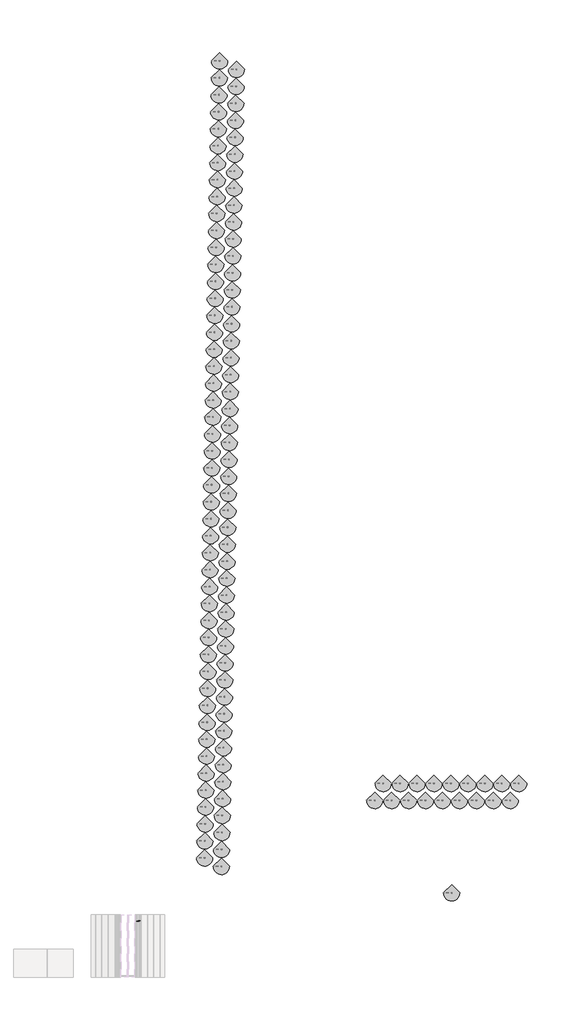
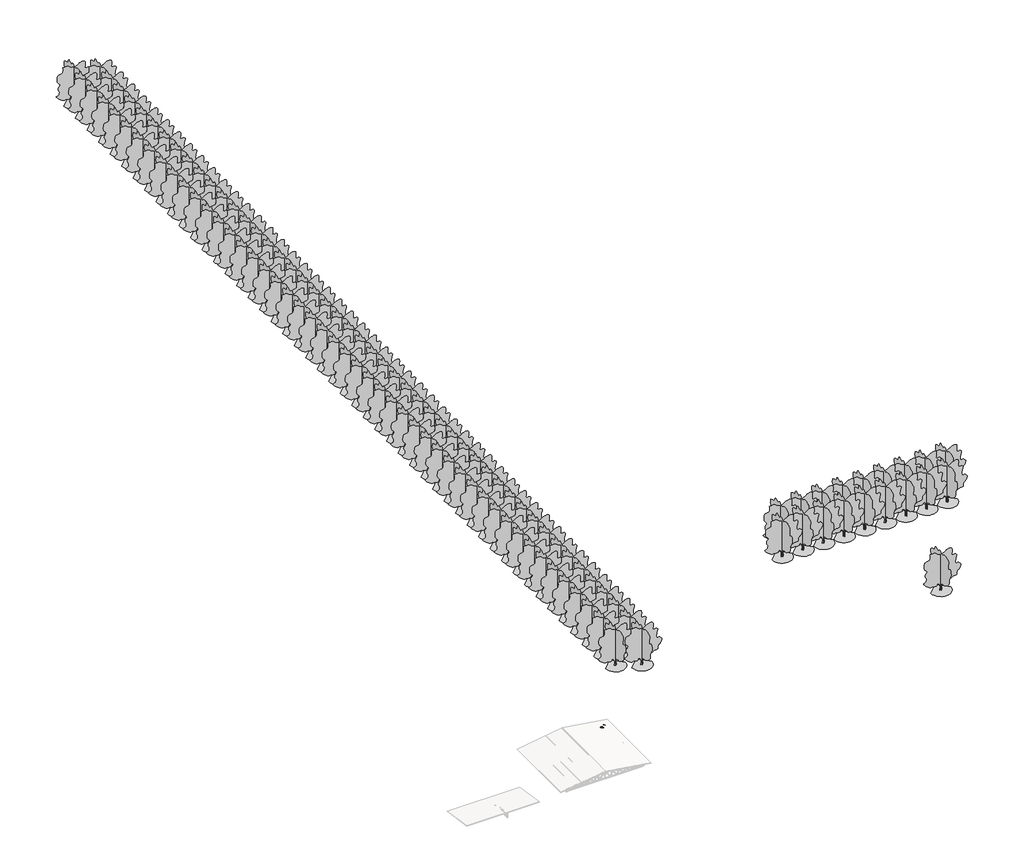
# One storey, part 3 of 3: 115 geographic elements, 3 beams.
"""IFC4 building model written with IfcOpenShell, lengths in millimetres."""

from ifc_helpers import new_model, si_unit, frame, origin, place, context, project, spatial, polyline, circle_curve, ellipse_curve, faceted_brep, transform, mapped, element, save
from ifc_brep_helpers import plane_surface, cylinder_surface, revolved_surface, advanced_brep
from components import viga_c_10x10_969106f8, viga_c_10x10_c6adb8ef, geographic_element_a8546ef5

model = new_model("IFC4")

# Units and contexts
model_context = context("Model", 3, world=origin())
ifc_project = project(units=[si_unit("LENGTHUNIT", "METRE", prefix="MILLI")], contexts=[model_context])

# Site, building, storey
site = spatial("IfcSite", under=ifc_project)
building = spatial("IfcBuilding", under=site)
storey = spatial("IfcBuildingStorey", under=building, Name="NÍVEL PLATIBANDA", Elevation=4700.0)

# Beams
placement = place(None, origin())
element("IfcBeam", 1, ObjectType="VIGA PERFIL C AÇO : VIGA C 10X10", at=placement, inside=storey, context=model_context, shape_type="SolidModel", body=[
    advanced_brep(
    [(11327.9549749, 9465.0563425, 5169.8578124), (11327.9549749, 9372.6563425, 5169.8578124), (11327.3912812, 9368.8563425, 5166.0998543), (11313.6846234, 9368.8563425, 5074.7221353), (11313.1209297, 9372.6563425, 5070.9641771), (11313.1209297, 9388.8563425, 5070.9641771), (11313.4027765, 9388.8563425, 5072.8431562), (11313.4027765, 9372.6563425, 5072.8431562), (11313.6846234, 9370.7563425, 5074.7221353), (11327.3912812, 9370.7563425, 5166.0998543), (11327.6731281, 9372.6563425, 5167.9788333), (11327.6731281, 9465.0563425, 5167.9788333), (11327.3912812, 9466.9563425, 5166.0998543), (11313.6846234, 9466.9563425, 5074.7221353), (11313.4027765, 9465.0563425, 5072.8431562), (11313.4027765, 9448.8563425, 5072.8431562), (11313.1209297, 9448.8563425, 5070.9641771), (11313.1209297, 9465.0563425, 5070.9641771), (11313.6846234, 9468.8563425, 5074.7221353), (11327.3912812, 9468.8563425, 5166.0998543), (3776.8201839, 9465.0563425, 6302.5280311), (3776.8201839, 9372.6563425, 6302.5280311), (3776.8201839, 9368.8563425, 6298.6855189), (3776.8201839, 9368.8563425, 6205.2518012), (3776.8201839, 9372.6563425, 6201.409289), (3776.8201839, 9388.8563425, 6201.409289), (3776.8201839, 9388.8563425, 6203.3305451), (3776.8201839, 9372.6563425, 6203.3305451), (3776.8201839, 9370.7563425, 6205.2518012), (3776.8201839, 9370.7563425, 6298.6855189), (3776.8201839, 9372.6563425, 6300.606775), (3776.8201839, 9465.0563425, 6300.606775), (3776.8201839, 9466.9563425, 6298.6855189), (3776.8201839, 9466.9563425, 6205.2518012), (3776.8201839, 9465.0563425, 6203.3305451), (3776.8201839, 9448.8563425, 6203.3305451), (3776.8201839, 9448.8563425, 6201.409289), (3776.8201839, 9465.0563425, 6201.409289), (3776.8201839, 9468.8563425, 6205.2518012), (3776.8201839, 9468.8563425, 6298.6855189)],
    [
        (0, 1),
        (1, 2, circle_curve(frame((11327.3912812, 9372.6563425, 5166.0998543), z_axis=(0.9889363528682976, 0.0, -0.14834045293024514), x_axis=(-0.14834045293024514, 0.0, -0.9889363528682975)), 3.8)),
        (2, 3),
        (3, 4, circle_curve(frame((11313.6846234, 9372.6563425, 5074.7221353), z_axis=(0.9889363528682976, 0.0, -0.14834045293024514), x_axis=(-0.14834045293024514, 0.0, -0.9889363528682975)), 3.8)),
        (4, 5),
        (5, 6),
        (6, 7),
        (7, 8, circle_curve(frame((11313.6846234, 9372.6563425, 5074.7221353), z_axis=(-0.9889363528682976, 0.0, 0.14834045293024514), x_axis=(-0.14834045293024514, 0.0, -0.9889363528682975)), 1.9)),
        (8, 9),
        (9, 10, circle_curve(frame((11327.3912812, 9372.6563425, 5166.0998543), z_axis=(-0.9889363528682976, 0.0, 0.14834045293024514), x_axis=(-0.14834045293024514, 0.0, -0.9889363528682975)), 1.9)),
        (10, 11),
        (11, 12, circle_curve(frame((11327.3912812, 9465.0563425, 5166.0998543), z_axis=(-0.9889363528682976, 0.0, 0.14834045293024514), x_axis=(-0.14834045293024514, 0.0, -0.9889363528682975)), 1.9)),
        (12, 13),
        (13, 14, circle_curve(frame((11313.6846234, 9465.0563425, 5074.7221353), z_axis=(-0.9889363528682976, 0.0, 0.14834045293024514), x_axis=(-0.14834045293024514, 0.0, -0.9889363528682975)), 1.9)),
        (14, 15),
        (15, 16),
        (16, 17),
        (17, 18, circle_curve(frame((11313.6846234, 9465.0563425, 5074.7221353), z_axis=(0.9889363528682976, 0.0, -0.14834045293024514), x_axis=(-0.14834045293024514, 0.0, -0.9889363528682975)), 3.8)),
        (18, 19),
        (19, 0, circle_curve(frame((11327.3912812, 9465.0563425, 5166.0998543), z_axis=(0.9889363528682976, 0.0, -0.14834045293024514), x_axis=(-0.14834045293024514, 0.0, -0.9889363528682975)), 3.8)),
        (0, 20),
        (20, 21),
        (21, 1),
        (21, 22, ellipse_curve(frame((3776.8201839, 9372.6563425, 6298.6855189), z_axis=(1.0, 0.0, 0.0), x_axis=(0.0, 0.0, -1.0)), 3.8425122, 3.8)),
        (22, 2),
        (22, 23),
        (23, 3),
        (23, 24, ellipse_curve(frame((3776.8201839, 9372.6563425, 6205.2518012), z_axis=(1.0, 0.0, 0.0), x_axis=(0.0, 0.0, -1.0)), 3.8425122, 3.8)),
        (24, 4),
        (24, 25),
        (25, 5),
        (25, 26),
        (26, 6),
        (26, 27),
        (27, 7),
        (27, 28, ellipse_curve(frame((3776.8201839, 9372.6563425, 6205.2518012), z_axis=(-1.0, 0.0, 0.0), x_axis=(0.0, 0.0, 1.0)), 1.9212561, 1.9)),
        (28, 8),
        (28, 29),
        (29, 9),
        (29, 30, ellipse_curve(frame((3776.8201839, 9372.6563425, 6298.6855189), z_axis=(-1.0, 0.0, 0.0), x_axis=(0.0, 0.0, 1.0)), 1.9212561, 1.9)),
        (30, 10),
        (30, 31),
        (31, 11),
        (31, 32, ellipse_curve(frame((3776.8201839, 9465.0563425, 6298.6855189), z_axis=(-1.0, 0.0, 0.0), x_axis=(0.0, 0.0, 1.0)), 1.9212561, 1.9)),
        (32, 12),
        (32, 33),
        (33, 13),
        (33, 34, ellipse_curve(frame((3776.8201839, 9465.0563425, 6205.2518012), z_axis=(-1.0, 0.0, 0.0), x_axis=(0.0, 0.0, 1.0)), 1.9212561, 1.9)),
        (34, 14),
        (34, 35),
        (35, 15),
        (35, 36),
        (36, 16),
        (36, 37),
        (37, 17),
        (37, 38, ellipse_curve(frame((3776.8201839, 9465.0563425, 6205.2518012), z_axis=(1.0, 0.0, 0.0), x_axis=(0.0, 0.0, -1.0)), 3.8425122, 3.8)),
        (38, 18),
        (38, 39),
        (39, 19),
        (39, 20, ellipse_curve(frame((3776.8201839, 9465.0563425, 6298.6855189), z_axis=(1.0, 0.0, 0.0), x_axis=(0.0, 0.0, -1.0)), 3.8425122, 3.8)),
    ],
    [
        plane_surface(frame((11327.9549749, 9418.8563425, 5169.8578124), z_axis=(0.9889363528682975, 0.0, -0.14834045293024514), x_axis=(0.0, -1.0, 0.0))),
        plane_surface(frame((11327.9549749, 9465.0563425, 5169.8578124), z_axis=(0.14834045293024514, 0.0, 0.9889363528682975), x_axis=(-0.9889363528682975, 0.0, 0.14834045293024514))),
        cylinder_surface(frame((11327.3912812, 9372.6563425, 5166.0998543), z_axis=(0.9889363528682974, 0.0, -0.14834045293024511), x_axis=(-0.14834045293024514, 0.0, -0.9889363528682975)), 3.8),
        plane_surface(frame((11327.3912812, 9368.8563425, 5166.0998543), z_axis=(0.0, -1.0, 0.0), x_axis=(-0.9889363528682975, 0.0, 0.14834045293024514))),
        cylinder_surface(frame((11313.6846234, 9372.6563425, 5074.7221353), z_axis=(0.9889363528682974, 0.0, -0.14834045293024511), x_axis=(-0.14834045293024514, 0.0, -0.9889363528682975)), 3.8),
        plane_surface(frame((11313.1209297, 9372.6563425, 5070.9641771), z_axis=(-0.14834045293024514, 0.0, -0.9889363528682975), x_axis=(-0.9889363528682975, 0.0, 0.14834045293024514))),
        plane_surface(frame((11313.1209297, 9388.8563425, 5070.9641771), z_axis=(0.0, 1.0, 0.0), x_axis=(-0.9889363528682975, 0.0, 0.14834045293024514))),
        plane_surface(frame((11313.4027765, 9388.8563425, 5072.8431562), z_axis=(0.14834045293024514, 0.0, 0.9889363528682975), x_axis=(-0.9889363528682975, 0.0, 0.14834045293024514))),
        revolved_surface(polyline([(3776.2564901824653, 9372.6563425, 6203.415099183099), (11313.402776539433, 9372.6563425, 5072.843156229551)]), (11313.6846234, 9372.6563425, 5074.7221353), (-0.9889363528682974, 0.0, 0.14834045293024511)),
        plane_surface(frame((11313.6846234, 9370.7563425, 5074.7221353), z_axis=(0.0, 1.0, 0.0), x_axis=(-0.9889363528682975, 0.0, 0.14834045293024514))),
        revolved_surface(polyline([(3776.2564901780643, 9372.6563425, 6296.848816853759), (11327.109434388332, 9372.6563425, 5164.220875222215)]), (11327.3912812, 9372.6563425, 5166.0998543), (-0.9889363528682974, 0.0, 0.14834045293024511)),
        plane_surface(frame((11327.6731281, 9372.6563425, 5167.9788333), z_axis=(-0.14834045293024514, 0.0, -0.9889363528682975), x_axis=(-0.9889363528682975, 0.0, 0.14834045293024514))),
        revolved_surface(polyline([(3776.2564901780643, 9465.0563425, 6296.848816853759), (11327.109434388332, 9465.0563425, 5164.220875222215)]), (11327.3912812, 9465.0563425, 5166.0998543), (-0.9889363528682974, 0.0, 0.14834045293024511)),
        plane_surface(frame((11327.3912812, 9466.9563425, 5166.0998543), z_axis=(0.0, -1.0, 0.0), x_axis=(-0.9889363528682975, 0.0, 0.14834045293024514))),
        revolved_surface(polyline([(3776.2564901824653, 9465.0563425, 6203.415099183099), (11313.402776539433, 9465.0563425, 5072.843156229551)]), (11313.6846234, 9465.0563425, 5074.7221353), (-0.9889363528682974, 0.0, 0.14834045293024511)),
        plane_surface(frame((11313.4027765, 9465.0563425, 5072.8431562), z_axis=(0.14834045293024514, 0.0, 0.9889363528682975), x_axis=(-0.9889363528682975, 0.0, 0.14834045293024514))),
        plane_surface(frame((11313.4027765, 9448.8563425, 5072.8431562), z_axis=(0.0, -1.0, 0.0), x_axis=(-0.9889363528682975, 0.0, 0.14834045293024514))),
        plane_surface(frame((11313.1209297, 9448.8563425, 5070.9641771), z_axis=(-0.14834045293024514, 0.0, -0.9889363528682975), x_axis=(-0.9889363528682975, 0.0, 0.14834045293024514))),
        cylinder_surface(frame((11313.6846234, 9465.0563425, 5074.7221353), z_axis=(0.9889363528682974, 0.0, -0.14834045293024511), x_axis=(-0.14834045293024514, 0.0, -0.9889363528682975)), 3.8),
        plane_surface(frame((11313.6846234, 9468.8563425, 5074.7221353), z_axis=(0.0, 1.0, 0.0), x_axis=(-0.9889363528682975, 0.0, 0.14834045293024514))),
        cylinder_surface(frame((11327.3912812, 9465.0563425, 5166.0998543), z_axis=(0.9889363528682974, 0.0, -0.14834045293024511), x_axis=(-0.14834045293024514, 0.0, -0.9889363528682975)), 3.8),
        plane_surface(frame((3776.8201839, 9418.8563425, 6302.5280311), z_axis=(-1.0, 0.0, 0.0), x_axis=(0.0, 1.0, 0.0))),
    ],
    [
        (0, [[1, 2, 3, 4, 5, 6, 7, 8, 9, 10, 11, 12, 13, 14, 15, 16, 17, 18, 19, 20]]),
        (1, [[-1, 21, 22, 23]]),
        (2, [[-2, -23, 24, 25]]),
        (3, [[-3, -25, 26, 27]]),
        (4, [[-4, -27, 28, 29]]),
        (5, [[-5, -29, 30, 31]]),
        (6, [[-6, -31, 32, 33]]),
        (7, [[-7, -33, 34, 35]]),
        (8, [[-8, -35, 36, 37]]),
        (9, [[-9, -37, 38, 39]]),
        (10, [[-10, -39, 40, 41]]),
        (11, [[-11, -41, 42, 43]]),
        (12, [[-12, -43, 44, 45]]),
        (13, [[-13, -45, 46, 47]]),
        (14, [[-14, -47, 48, 49]]),
        (15, [[-15, -49, 50, 51]]),
        (16, [[-16, -51, 52, 53]]),
        (17, [[-17, -53, 54, 55]]),
        (18, [[-18, -55, 56, 57]]),
        (19, [[-19, -57, 58, 59]]),
        (20, [[-20, -59, 60, -21]]),
        (21, [[-60, -58, -56, -54, -52, -50, -48, -46, -44, -42, -40, -38, -36, -34, -32, -30, -28, -26, -24, -22]]),
    ],
),
    faceted_brep([(11327.9549749, 9468.8563425, 5169.8578124), (11327.9549749, 9368.8563425, 5169.8578124), (11313.1209297, 9368.8563425, 5070.9641771), (11313.1209297, 9388.8563425, 5070.9641771), (11313.4027765, 9388.8563425, 5072.8431562), (11313.4027765, 9370.7563425, 5072.8431562), (11327.6731281, 9370.7563425, 5167.9788333), (11327.6731281, 9466.9563425, 5167.9788333), (11313.4027765, 9466.9563425, 5072.8431562), (11313.4027765, 9448.8563425, 5072.8431562), (11313.1209297, 9448.8563425, 5070.9641771), (11313.1209297, 9468.8563425, 5070.9641771), (3776.8201839, 9468.8563425, 6302.5280311), (3776.8201839, 9368.8563425, 6302.5280311), (3776.8201839, 9368.8563425, 6201.409289), (3776.8201839, 9388.8563425, 6201.409289), (3776.8201839, 9388.8563425, 6203.3305451), (3776.8201839, 9370.7563425, 6203.3305451), (3776.8201839, 9370.7563425, 6300.606775), (3776.8201839, 9466.9563425, 6300.606775), (3776.8201839, 9466.9563425, 6203.3305451), (3776.8201839, 9448.8563425, 6203.3305451), (3776.8201839, 9448.8563425, 6201.409289), (3776.8201839, 9468.8563425, 6201.409289)], [[[0, 1, 2, 3, 4, 5, 6, 7, 8, 9, 10, 11]], [[1, 0, 12, 13]], [[2, 1, 13, 14]], [[3, 2, 14, 15]], [[4, 3, 15, 16]], [[5, 4, 16, 17]], [[6, 5, 17, 18]], [[7, 6, 18, 19]], [[8, 7, 19, 20]], [[9, 8, 20, 21]], [[10, 9, 21, 22]], [[11, 10, 22, 23]], [[0, 11, 23, 12]], [[12, 23, 22, 21, 20, 19, 18, 17, 16, 15, 14, 13]]]),
])
viga_c_10x10_shape = viga_c_10x10_969106f8(model_context)
element("IfcBeam", 2, ObjectType="VIGA PERFIL C AÇO : VIGA C 10X10", at=placement, inside=storey, context=model_context, shape_type="MappedRepresentation", body=[
    mapped(viga_c_10x10_shape, transform((11326.8201839, 9418.8563425, 4930.3625534), x_axis=(0.0, 0.0, 1.0), y_axis=(-1.0, 0.0, 0.0), z_axis=(0.0, -1.0, 0.0))),
])
viga_c_10x10_2_shape = viga_c_10x10_c6adb8ef(model_context)
element("IfcBeam", 3, ObjectType="VIGA PERFIL C AÇO : VIGA C 10X10", at=placement, inside=storey, context=model_context, shape_type="MappedRepresentation", body=[
    mapped(viga_c_10x10_2_shape, transform((10735.1535172, 9418.8563425, 5019.1125534), x_axis=(0.8801462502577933, 0.0, -0.4747026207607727), y_axis=(0.4747026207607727, 0.0, 0.8801462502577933), z_axis=(0.0, -1.0, 0.0))),
])

# Geographic elements
geographic_element_shape = geographic_element_a8546ef5(model_context)
element("IfcGeographicElement", 4, ObjectType="ÁRVORES PADRÃO AMM : RETIRAR", at=placement, inside=storey, context=model_context, shape_type="MappedRepresentation", body=[
    mapped(geographic_element_shape, transform((25830.0186154, 22268.8563425, 4700.0), x_axis=(1.0, 0.0, 0.0), y_axis=(0.0, 1.0, 0.0), z_axis=(0.0, 0.0, 1.0))),
])
element("IfcGeographicElement", 5, ObjectType="ÁRVORES PADRÃO AMM : RETIRAR", at=placement, inside=storey, context=model_context, shape_type="MappedRepresentation", body=[
    mapped(geographic_element_shape, transform((25882.1522208, 26286.4280924, 4700.0), x_axis=(0.9998191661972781, -0.019016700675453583, 0.0), y_axis=(0.01901670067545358, 0.999819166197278, 0.0), z_axis=(0.0, 0.0, 0.9999999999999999))),
])
element("IfcGeographicElement", 6, ObjectType="ÁRVORES PADRÃO AMM : RETIRAR", at=placement, inside=storey, context=model_context, shape_type="MappedRepresentation", body=[
    mapped(geographic_element_shape, transform((25957.4524923, 30280.5954554, 4700.0), x_axis=(1.0, 0.0, 0.0), y_axis=(0.0, 1.0, 0.0), z_axis=(0.0, 0.0, 1.0))),
])
element("IfcGeographicElement", 7, ObjectType="ÁRVORES PADRÃO AMM : RETIRAR", at=placement, inside=storey, context=model_context, shape_type="MappedRepresentation", body=[
    mapped(geographic_element_shape, transform((26033.519295, 34279.8721202, 4700.0), x_axis=(1.0, 0.0, 0.0), y_axis=(0.0, 1.0, 0.0), z_axis=(0.0, 0.0, 1.0))),
])
element("IfcGeographicElement", 8, ObjectType="ÁRVORES PADRÃO AMM : RETIRAR", at=placement, inside=storey, context=model_context, shape_type="MappedRepresentation", body=[
    mapped(geographic_element_shape, transform((26109.5860977, 38279.148785, 4700.0), x_axis=(1.0, 0.0, 0.0), y_axis=(0.0, 1.0, 0.0), z_axis=(0.0, 0.0, 1.0))),
])
element("IfcGeographicElement", 9, ObjectType="ÁRVORES PADRÃO AMM : RETIRAR", at=placement, inside=storey, context=model_context, shape_type="MappedRepresentation", body=[
    mapped(geographic_element_shape, transform((26185.6529004, 42278.4254498, 4700.0), x_axis=(1.0, 0.0, 0.0), y_axis=(0.0, 1.0, 0.0), z_axis=(0.0, 0.0, 1.0))),
])
element("IfcGeographicElement", 10, ObjectType="ÁRVORES PADRÃO AMM : RETIRAR", at=placement, inside=storey, context=model_context, shape_type="MappedRepresentation", body=[
    mapped(geographic_element_shape, transform((26261.7197031, 46277.7021145, 4700.0), x_axis=(1.0, 0.0, 0.0), y_axis=(0.0, 1.0, 0.0), z_axis=(0.0, 0.0, 1.0))),
])
element("IfcGeographicElement", 11, ObjectType="ÁRVORES PADRÃO AMM : RETIRAR", at=placement, inside=storey, context=model_context, shape_type="MappedRepresentation", body=[
    mapped(geographic_element_shape, transform((26337.7865058, 50276.9787793, 4700.0), x_axis=(1.0, 0.0, 0.0), y_axis=(0.0, 1.0, 0.0), z_axis=(0.0, 0.0, 1.0))),
])
element("IfcGeographicElement", 12, ObjectType="ÁRVORES PADRÃO AMM : RETIRAR", at=placement, inside=storey, context=model_context, shape_type="MappedRepresentation", body=[
    mapped(geographic_element_shape, transform((26413.8533085, 54276.2554441, 4700.0), x_axis=(1.0, 0.0, 0.0), y_axis=(0.0, 1.0, 0.0), z_axis=(0.0, 0.0, 1.0))),
])
element("IfcGeographicElement", 13, ObjectType="ÁRVORES PADRÃO AMM : RETIRAR", at=placement, inside=storey, context=model_context, shape_type="MappedRepresentation", body=[
    mapped(geographic_element_shape, transform((26489.9201112, 58275.5321089, 4700.0), x_axis=(1.0, 0.0, 0.0), y_axis=(0.0, 1.0, 0.0), z_axis=(0.0, 0.0, 1.0))),
])
element("IfcGeographicElement", 14, ObjectType="ÁRVORES PADRÃO AMM : RETIRAR", at=placement, inside=storey, context=model_context, shape_type="MappedRepresentation", body=[
    mapped(geographic_element_shape, transform((26565.9869139, 62274.8087737, 4700.0), x_axis=(1.0, 0.0, 0.0), y_axis=(0.0, 1.0, 0.0), z_axis=(0.0, 0.0, 1.0))),
])
element("IfcGeographicElement", 15, ObjectType="ÁRVORES PADRÃO AMM : RETIRAR", at=placement, inside=storey, context=model_context, shape_type="MappedRepresentation", body=[
    mapped(geographic_element_shape, transform((26642.0537166, 66274.0854385, 4700.0), x_axis=(1.0, 0.0, 0.0), y_axis=(0.0, 1.0, 0.0), z_axis=(0.0, 0.0, 1.0))),
])
element("IfcGeographicElement", 16, ObjectType="ÁRVORES PADRÃO AMM : RETIRAR", at=placement, inside=storey, context=model_context, shape_type="MappedRepresentation", body=[
    mapped(geographic_element_shape, transform((26718.1205193, 70273.3621033, 4700.0), x_axis=(1.0, 0.0, 0.0), y_axis=(0.0, 1.0, 0.0), z_axis=(0.0, 0.0, 1.0))),
])
element("IfcGeographicElement", 17, ObjectType="ÁRVORES PADRÃO AMM : RETIRAR", at=placement, inside=storey, context=model_context, shape_type="MappedRepresentation", body=[
    mapped(geographic_element_shape, transform((26794.187322, 74272.6387681, 4700.0), x_axis=(1.0, 0.0, 0.0), y_axis=(0.0, 1.0, 0.0), z_axis=(0.0, 0.0, 1.0))),
])
element("IfcGeographicElement", 18, ObjectType="ÁRVORES PADRÃO AMM : RETIRAR", at=placement, inside=storey, context=model_context, shape_type="MappedRepresentation", body=[
    mapped(geographic_element_shape, transform((26870.2541247, 78271.9154329, 4700.0), x_axis=(1.0, 0.0, 0.0), y_axis=(0.0, 1.0, 0.0), z_axis=(0.0, 0.0, 1.0))),
])
element("IfcGeographicElement", 19, ObjectType="ÁRVORES PADRÃO AMM : RETIRAR", at=placement, inside=storey, context=model_context, shape_type="MappedRepresentation", body=[
    mapped(geographic_element_shape, transform((26946.3209274, 82271.1920976, 4700.0), x_axis=(1.0, 0.0, 0.0), y_axis=(0.0, 1.0, 0.0), z_axis=(0.0, 0.0, 1.0))),
])
element("IfcGeographicElement", 20, ObjectType="ÁRVORES PADRÃO AMM : RETIRAR", at=placement, inside=storey, context=model_context, shape_type="MappedRepresentation", body=[
    mapped(geographic_element_shape, transform((27022.3877301, 86270.4687624, 4700.0), x_axis=(1.0, 0.0, 0.0), y_axis=(0.0, 1.0, 0.0), z_axis=(0.0, 0.0, 1.0))),
])
element("IfcGeographicElement", 21, ObjectType="ÁRVORES PADRÃO AMM : RETIRAR", at=placement, inside=storey, context=model_context, shape_type="MappedRepresentation", body=[
    mapped(geographic_element_shape, transform((27098.4545328, 90269.7454272, 4700.0), x_axis=(1.0, 0.0, 0.0), y_axis=(0.0, 1.0, 0.0), z_axis=(0.0, 0.0, 1.0))),
])
element("IfcGeographicElement", 22, ObjectType="ÁRVORES PADRÃO AMM : RETIRAR", at=placement, inside=storey, context=model_context, shape_type="MappedRepresentation", body=[
    mapped(geographic_element_shape, transform((27174.5213355, 94269.022092, 4700.0), x_axis=(1.0, 0.0, 0.0), y_axis=(0.0, 1.0, 0.0), z_axis=(0.0, 0.0, 1.0))),
])
element("IfcGeographicElement", 23, ObjectType="ÁRVORES PADRÃO AMM : RETIRAR", at=placement, inside=storey, context=model_context, shape_type="MappedRepresentation", body=[
    mapped(geographic_element_shape, transform((27250.5881382, 98268.2987568, 4700.0), x_axis=(1.0, 0.0, 0.0), y_axis=(0.0, 1.0, 0.0), z_axis=(0.0, 0.0, 1.0))),
])
element("IfcGeographicElement", 24, ObjectType="ÁRVORES PADRÃO AMM : RETIRAR", at=placement, inside=storey, context=model_context, shape_type="MappedRepresentation", body=[
    mapped(geographic_element_shape, transform((27326.6549409, 102267.5754216, 4700.0), x_axis=(1.0, 0.0, 0.0), y_axis=(0.0, 1.0, 0.0), z_axis=(0.0, 0.0, 1.0))),
])
element("IfcGeographicElement", 25, ObjectType="ÁRVORES PADRÃO AMM : RETIRAR", at=placement, inside=storey, context=model_context, shape_type="MappedRepresentation", body=[
    mapped(geographic_element_shape, transform((27402.7217436, 106266.8520864, 4700.0), x_axis=(1.0, 0.0, 0.0), y_axis=(0.0, 1.0, 0.0), z_axis=(0.0, 0.0, 1.0))),
])
element("IfcGeographicElement", 26, ObjectType="ÁRVORES PADRÃO AMM : RETIRAR", at=placement, inside=storey, context=model_context, shape_type="MappedRepresentation", body=[
    mapped(geographic_element_shape, transform((27478.7885463, 110266.1287512, 4700.0), x_axis=(1.0, 0.0, 0.0), y_axis=(0.0, 1.0, 0.0), z_axis=(0.0, 0.0, 1.0))),
])
element("IfcGeographicElement", 27, ObjectType="ÁRVORES PADRÃO AMM : RETIRAR", at=placement, inside=storey, context=model_context, shape_type="MappedRepresentation", body=[
    mapped(geographic_element_shape, transform((27554.855349, 114265.405416, 4700.0), x_axis=(1.0, 0.0, 0.0), y_axis=(0.0, 1.0, 0.0), z_axis=(0.0, 0.0, 1.0))),
])
element("IfcGeographicElement", 28, ObjectType="ÁRVORES PADRÃO AMM : RETIRAR", at=placement, inside=storey, context=model_context, shape_type="MappedRepresentation", body=[
    mapped(geographic_element_shape, transform((27630.9221517, 118264.6820807, 4700.0), x_axis=(1.0, 0.0, 0.0), y_axis=(0.0, 1.0, 0.0), z_axis=(0.0, 0.0, 1.0))),
])
element("IfcGeographicElement", 29, ObjectType="ÁRVORES PADRÃO AMM : RETIRAR", at=placement, inside=storey, context=model_context, shape_type="MappedRepresentation", body=[
    mapped(geographic_element_shape, transform((27706.9889544, 122263.9587455, 4700.0), x_axis=(1.0, 0.0, 0.0), y_axis=(0.0, 1.0, 0.0), z_axis=(0.0, 0.0, 1.0))),
])
element("IfcGeographicElement", 30, ObjectType="ÁRVORES PADRÃO AMM : RETIRAR", at=placement, inside=storey, context=model_context, shape_type="MappedRepresentation", body=[
    mapped(geographic_element_shape, transform((27783.0557571, 126263.2354103, 4700.0), x_axis=(1.0, 0.0, 0.0), y_axis=(0.0, 1.0, 0.0), z_axis=(0.0, 0.0, 1.0))),
])
element("IfcGeographicElement", 31, ObjectType="ÁRVORES PADRÃO AMM : RETIRAR", at=placement, inside=storey, context=model_context, shape_type="MappedRepresentation", body=[
    mapped(geographic_element_shape, transform((27859.1225598, 130262.5120751, 4700.0), x_axis=(1.0, 0.0, 0.0), y_axis=(0.0, 1.0, 0.0), z_axis=(0.0, 0.0, 1.0))),
])
element("IfcGeographicElement", 32, ObjectType="ÁRVORES PADRÃO AMM : RETIRAR", at=placement, inside=storey, context=model_context, shape_type="MappedRepresentation", body=[
    mapped(geographic_element_shape, transform((27935.1893625, 134261.7887399, 4700.0), x_axis=(1.0, 0.0, 0.0), y_axis=(0.0, 1.0, 0.0), z_axis=(0.0, 0.0, 1.0))),
])
element("IfcGeographicElement", 33, ObjectType="ÁRVORES PADRÃO AMM : RETIRAR", at=placement, inside=storey, context=model_context, shape_type="MappedRepresentation", body=[
    mapped(geographic_element_shape, transform((28011.2561652, 138261.0654047, 4700.0), x_axis=(1.0, 0.0, 0.0), y_axis=(0.0, 1.0, 0.0), z_axis=(0.0, 0.0, 1.0))),
])
element("IfcGeographicElement", 34, ObjectType="ÁRVORES PADRÃO AMM : RETIRAR", at=placement, inside=storey, context=model_context, shape_type="MappedRepresentation", body=[
    mapped(geographic_element_shape, transform((28087.3229679, 142260.3420695, 4700.0), x_axis=(1.0, 0.0, 0.0), y_axis=(0.0, 1.0, 0.0), z_axis=(0.0, 0.0, 1.0))),
])
element("IfcGeographicElement", 35, ObjectType="ÁRVORES PADRÃO AMM : RETIRAR", at=placement, inside=storey, context=model_context, shape_type="MappedRepresentation", body=[
    mapped(geographic_element_shape, transform((28163.3897706, 146259.6187343, 4700.0), x_axis=(1.0, 0.0, 0.0), y_axis=(0.0, 1.0, 0.0), z_axis=(0.0, 0.0, 1.0))),
])
element("IfcGeographicElement", 36, ObjectType="ÁRVORES PADRÃO AMM : RETIRAR", at=placement, inside=storey, context=model_context, shape_type="MappedRepresentation", body=[
    mapped(geographic_element_shape, transform((28239.4565733, 150258.8953991, 4700.0), x_axis=(1.0, 0.0, 0.0), y_axis=(0.0, 1.0, 0.0), z_axis=(0.0, 0.0, 1.0))),
])
element("IfcGeographicElement", 37, ObjectType="ÁRVORES PADRÃO AMM : RETIRAR", at=placement, inside=storey, context=model_context, shape_type="MappedRepresentation", body=[
    mapped(geographic_element_shape, transform((28315.523376, 154258.1720638, 4700.0), x_axis=(1.0, 0.0, 0.0), y_axis=(0.0, 1.0, 0.0), z_axis=(0.0, 0.0, 1.0))),
])
element("IfcGeographicElement", 38, ObjectType="ÁRVORES PADRÃO AMM : RETIRAR", at=placement, inside=storey, context=model_context, shape_type="MappedRepresentation", body=[
    mapped(geographic_element_shape, transform((28391.5901787, 158257.4487286, 4700.0), x_axis=(1.0, 0.0, 0.0), y_axis=(0.0, 1.0, 0.0), z_axis=(0.0, 0.0, 1.0))),
])
element("IfcGeographicElement", 39, ObjectType="ÁRVORES PADRÃO AMM : RETIRAR", at=placement, inside=storey, context=model_context, shape_type="MappedRepresentation", body=[
    mapped(geographic_element_shape, transform((28467.6569814, 162256.7253934, 4700.0), x_axis=(1.0, 0.0, 0.0), y_axis=(0.0, 1.0, 0.0), z_axis=(0.0, 0.0, 1.0))),
])
element("IfcGeographicElement", 40, ObjectType="ÁRVORES PADRÃO AMM : RETIRAR", at=placement, inside=storey, context=model_context, shape_type="MappedRepresentation", body=[
    mapped(geographic_element_shape, transform((28543.7237841, 166256.0020582, 4700.0), x_axis=(1.0, 0.0, 0.0), y_axis=(0.0, 1.0, 0.0), z_axis=(0.0, 0.0, 1.0))),
])
element("IfcGeographicElement", 41, ObjectType="ÁRVORES PADRÃO AMM : RETIRAR", at=placement, inside=storey, context=model_context, shape_type="MappedRepresentation", body=[
    mapped(geographic_element_shape, transform((28619.7905868, 170255.278723, 4700.0), x_axis=(1.0, 0.0, 0.0), y_axis=(0.0, 1.0, 0.0), z_axis=(0.0, 0.0, 1.0))),
])
element("IfcGeographicElement", 42, ObjectType="ÁRVORES PADRÃO AMM : RETIRAR", at=placement, inside=storey, context=model_context, shape_type="MappedRepresentation", body=[
    mapped(geographic_element_shape, transform((28695.8573895, 174254.5553878, 4700.0), x_axis=(1.0, 0.0, 0.0), y_axis=(0.0, 1.0, 0.0), z_axis=(0.0, 0.0, 1.0))),
])
element("IfcGeographicElement", 43, ObjectType="ÁRVORES PADRÃO AMM : RETIRAR", at=placement, inside=storey, context=model_context, shape_type="MappedRepresentation", body=[
    mapped(geographic_element_shape, transform((28771.9241922, 178253.8320526, 4700.0), x_axis=(1.0, 0.0, 0.0), y_axis=(0.0, 1.0, 0.0), z_axis=(0.0, 0.0, 1.0))),
])
element("IfcGeographicElement", 44, ObjectType="ÁRVORES PADRÃO AMM : RETIRAR", at=placement, inside=storey, context=model_context, shape_type="MappedRepresentation", body=[
    mapped(geographic_element_shape, transform((28847.990995, 182253.1087174, 4700.0), x_axis=(1.0, 0.0, 0.0), y_axis=(0.0, 1.0, 0.0), z_axis=(0.0, 0.0, 1.0))),
])
element("IfcGeographicElement", 45, ObjectType="ÁRVORES PADRÃO AMM : RETIRAR", at=placement, inside=storey, context=model_context, shape_type="MappedRepresentation", body=[
    mapped(geographic_element_shape, transform((28924.0577977, 186252.3853822, 4700.0), x_axis=(1.0, 0.0, 0.0), y_axis=(0.0, 1.0, 0.0), z_axis=(0.0, 0.0, 1.0))),
])
element("IfcGeographicElement", 46, ObjectType="ÁRVORES PADRÃO AMM : RETIRAR", at=placement, inside=storey, context=model_context, shape_type="MappedRepresentation", body=[
    mapped(geographic_element_shape, transform((29000.1246004, 190251.6620469, 4700.0), x_axis=(1.0, 0.0, 0.0), y_axis=(0.0, 1.0, 0.0), z_axis=(0.0, 0.0, 1.0))),
])
element("IfcGeographicElement", 47, ObjectType="ÁRVORES PADRÃO AMM : RETIRAR", at=placement, inside=storey, context=model_context, shape_type="MappedRepresentation", body=[
    mapped(geographic_element_shape, transform((29076.1914031, 194250.9387117, 4700.0), x_axis=(1.0, 0.0, 0.0), y_axis=(0.0, 1.0, 0.0), z_axis=(0.0, 0.0, 1.0))),
])
element("IfcGeographicElement", 48, ObjectType="ÁRVORES PADRÃO AMM : RETIRAR", at=placement, inside=storey, context=model_context, shape_type="MappedRepresentation", body=[
    mapped(geographic_element_shape, transform((29152.2582058, 198250.2153765, 4700.0), x_axis=(1.0, 0.0, 0.0), y_axis=(0.0, 1.0, 0.0), z_axis=(0.0, 0.0, 1.0))),
])
element("IfcGeographicElement", 49, ObjectType="ÁRVORES PADRÃO AMM : RETIRAR", at=placement, inside=storey, context=model_context, shape_type="MappedRepresentation", body=[
    mapped(geographic_element_shape, transform((29228.3250085, 202249.4920413, 4700.0), x_axis=(1.0, 0.0, 0.0), y_axis=(0.0, 1.0, 0.0), z_axis=(0.0, 0.0, 1.0))),
])
element("IfcGeographicElement", 50, ObjectType="ÁRVORES PADRÃO AMM : RETIRAR", at=placement, inside=storey, context=model_context, shape_type="MappedRepresentation", body=[
    mapped(geographic_element_shape, transform((29304.3918112, 206248.7687061, 4700.0), x_axis=(1.0, 0.0, 0.0), y_axis=(0.0, 1.0, 0.0), z_axis=(0.0, 0.0, 1.0))),
])
element("IfcGeographicElement", 51, ObjectType="ÁRVORES PADRÃO AMM : RETIRAR", at=placement, inside=storey, context=model_context, shape_type="MappedRepresentation", body=[
    mapped(geographic_element_shape, transform((29381.2251451, 210253.1546727, 4700.0), x_axis=(0.9998191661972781, -0.019016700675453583, 0.0), y_axis=(0.01901670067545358, 0.999819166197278, 0.0), z_axis=(0.0, 0.0, 0.9999999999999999))),
])
element("IfcGeographicElement", 52, ObjectType="ÁRVORES PADRÃO AMM : RETIRAR", at=placement, inside=storey, context=model_context, shape_type="MappedRepresentation", body=[
    mapped(geographic_element_shape, transform((21869.9192181, 24276.4953511, 4700.0), x_axis=(1.0, 0.0, 0.0), y_axis=(0.0, 1.0, 0.0), z_axis=(0.0, 0.0, 1.0))),
])
element("IfcGeographicElement", 53, ObjectType="ÁRVORES PADRÃO AMM : RETIRAR", at=placement, inside=storey, context=model_context, shape_type="MappedRepresentation", body=[
    mapped(geographic_element_shape, transform((21922.0528235, 28294.0671009, 4700.0), x_axis=(0.9998191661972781, -0.019016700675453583, 0.0), y_axis=(0.01901670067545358, 0.999819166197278, 0.0), z_axis=(0.0, 0.0, 0.9999999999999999))),
])
element("IfcGeographicElement", 54, ObjectType="ÁRVORES PADRÃO AMM : RETIRAR", at=placement, inside=storey, context=model_context, shape_type="MappedRepresentation", body=[
    mapped(geographic_element_shape, transform((21997.353095, 32288.2344639, 4700.0), x_axis=(1.0, 0.0, 0.0), y_axis=(0.0, 1.0, 0.0), z_axis=(0.0, 0.0, 1.0))),
])
element("IfcGeographicElement", 55, ObjectType="ÁRVORES PADRÃO AMM : RETIRAR", at=placement, inside=storey, context=model_context, shape_type="MappedRepresentation", body=[
    mapped(geographic_element_shape, transform((22073.4198977, 36287.5111287, 4700.0), x_axis=(1.0, 0.0, 0.0), y_axis=(0.0, 1.0, 0.0), z_axis=(0.0, 0.0, 1.0))),
])
element("IfcGeographicElement", 56, ObjectType="ÁRVORES PADRÃO AMM : RETIRAR", at=placement, inside=storey, context=model_context, shape_type="MappedRepresentation", body=[
    mapped(geographic_element_shape, transform((22149.4867004, 40286.7877935, 4700.0), x_axis=(1.0, 0.0, 0.0), y_axis=(0.0, 1.0, 0.0), z_axis=(0.0, 0.0, 1.0))),
])
element("IfcGeographicElement", 57, ObjectType="ÁRVORES PADRÃO AMM : RETIRAR", at=placement, inside=storey, context=model_context, shape_type="MappedRepresentation", body=[
    mapped(geographic_element_shape, transform((22225.5535031, 44286.0644583, 4700.0), x_axis=(1.0, 0.0, 0.0), y_axis=(0.0, 1.0, 0.0), z_axis=(0.0, 0.0, 1.0))),
])
element("IfcGeographicElement", 58, ObjectType="ÁRVORES PADRÃO AMM : RETIRAR", at=placement, inside=storey, context=model_context, shape_type="MappedRepresentation", body=[
    mapped(geographic_element_shape, transform((22301.6203059, 48285.3411231, 4700.0), x_axis=(1.0, 0.0, 0.0), y_axis=(0.0, 1.0, 0.0), z_axis=(0.0, 0.0, 1.0))),
])
element("IfcGeographicElement", 59, ObjectType="ÁRVORES PADRÃO AMM : RETIRAR", at=placement, inside=storey, context=model_context, shape_type="MappedRepresentation", body=[
    mapped(geographic_element_shape, transform((22377.6871086, 52284.6177879, 4700.0), x_axis=(1.0, 0.0, 0.0), y_axis=(0.0, 1.0, 0.0), z_axis=(0.0, 0.0, 1.0))),
])
element("IfcGeographicElement", 60, ObjectType="ÁRVORES PADRÃO AMM : RETIRAR", at=placement, inside=storey, context=model_context, shape_type="MappedRepresentation", body=[
    mapped(geographic_element_shape, transform((22453.7539113, 56283.8944527, 4700.0), x_axis=(1.0, 0.0, 0.0), y_axis=(0.0, 1.0, 0.0), z_axis=(0.0, 0.0, 1.0))),
])
element("IfcGeographicElement", 61, ObjectType="ÁRVORES PADRÃO AMM : RETIRAR", at=placement, inside=storey, context=model_context, shape_type="MappedRepresentation", body=[
    mapped(geographic_element_shape, transform((22529.820714, 60283.1711174, 4700.0), x_axis=(1.0, 0.0, 0.0), y_axis=(0.0, 1.0, 0.0), z_axis=(0.0, 0.0, 1.0))),
])
element("IfcGeographicElement", 62, ObjectType="ÁRVORES PADRÃO AMM : RETIRAR", at=placement, inside=storey, context=model_context, shape_type="MappedRepresentation", body=[
    mapped(geographic_element_shape, transform((22605.8875167, 64282.4477822, 4700.0), x_axis=(1.0, 0.0, 0.0), y_axis=(0.0, 1.0, 0.0), z_axis=(0.0, 0.0, 1.0))),
])
element("IfcGeographicElement", 63, ObjectType="ÁRVORES PADRÃO AMM : RETIRAR", at=placement, inside=storey, context=model_context, shape_type="MappedRepresentation", body=[
    mapped(geographic_element_shape, transform((22681.9543194, 68281.724447, 4700.0), x_axis=(1.0, 0.0, 0.0), y_axis=(0.0, 1.0, 0.0), z_axis=(0.0, 0.0, 1.0))),
])
element("IfcGeographicElement", 64, ObjectType="ÁRVORES PADRÃO AMM : RETIRAR", at=placement, inside=storey, context=model_context, shape_type="MappedRepresentation", body=[
    mapped(geographic_element_shape, transform((22758.0211221, 72281.0011118, 4700.0), x_axis=(1.0, 0.0, 0.0), y_axis=(0.0, 1.0, 0.0), z_axis=(0.0, 0.0, 1.0))),
])
element("IfcGeographicElement", 65, ObjectType="ÁRVORES PADRÃO AMM : RETIRAR", at=placement, inside=storey, context=model_context, shape_type="MappedRepresentation", body=[
    mapped(geographic_element_shape, transform((22834.0879248, 76280.2777766, 4700.0), x_axis=(1.0, 0.0, 0.0), y_axis=(0.0, 1.0, 0.0), z_axis=(0.0, 0.0, 1.0))),
])
element("IfcGeographicElement", 66, ObjectType="ÁRVORES PADRÃO AMM : RETIRAR", at=placement, inside=storey, context=model_context, shape_type="MappedRepresentation", body=[
    mapped(geographic_element_shape, transform((22910.1547275, 80279.5544414, 4700.0), x_axis=(1.0, 0.0, 0.0), y_axis=(0.0, 1.0, 0.0), z_axis=(0.0, 0.0, 1.0))),
])
element("IfcGeographicElement", 67, ObjectType="ÁRVORES PADRÃO AMM : RETIRAR", at=placement, inside=storey, context=model_context, shape_type="MappedRepresentation", body=[
    mapped(geographic_element_shape, transform((22986.2215302, 84278.8311062, 4700.0), x_axis=(1.0, 0.0, 0.0), y_axis=(0.0, 1.0, 0.0), z_axis=(0.0, 0.0, 1.0))),
])
element("IfcGeographicElement", 68, ObjectType="ÁRVORES PADRÃO AMM : RETIRAR", at=placement, inside=storey, context=model_context, shape_type="MappedRepresentation", body=[
    mapped(geographic_element_shape, transform((23062.2883329, 88278.107771, 4700.0), x_axis=(1.0, 0.0, 0.0), y_axis=(0.0, 1.0, 0.0), z_axis=(0.0, 0.0, 1.0))),
])
element("IfcGeographicElement", 69, ObjectType="ÁRVORES PADRÃO AMM : RETIRAR", at=placement, inside=storey, context=model_context, shape_type="MappedRepresentation", body=[
    mapped(geographic_element_shape, transform((23138.3551356, 92277.3844358, 4700.0), x_axis=(1.0, 0.0, 0.0), y_axis=(0.0, 1.0, 0.0), z_axis=(0.0, 0.0, 1.0))),
])
element("IfcGeographicElement", 70, ObjectType="ÁRVORES PADRÃO AMM : RETIRAR", at=placement, inside=storey, context=model_context, shape_type="MappedRepresentation", body=[
    mapped(geographic_element_shape, transform((23214.4219383, 96276.6611005, 4700.0), x_axis=(1.0, 0.0, 0.0), y_axis=(0.0, 1.0, 0.0), z_axis=(0.0, 0.0, 1.0))),
])
element("IfcGeographicElement", 71, ObjectType="ÁRVORES PADRÃO AMM : RETIRAR", at=placement, inside=storey, context=model_context, shape_type="MappedRepresentation", body=[
    mapped(geographic_element_shape, transform((23290.488741, 100275.9377653, 4700.0), x_axis=(1.0, 0.0, 0.0), y_axis=(0.0, 1.0, 0.0), z_axis=(0.0, 0.0, 1.0))),
])
element("IfcGeographicElement", 72, ObjectType="ÁRVORES PADRÃO AMM : RETIRAR", at=placement, inside=storey, context=model_context, shape_type="MappedRepresentation", body=[
    mapped(geographic_element_shape, transform((23366.5555437, 104275.2144301, 4700.0), x_axis=(1.0, 0.0, 0.0), y_axis=(0.0, 1.0, 0.0), z_axis=(0.0, 0.0, 1.0))),
])
element("IfcGeographicElement", 73, ObjectType="ÁRVORES PADRÃO AMM : RETIRAR", at=placement, inside=storey, context=model_context, shape_type="MappedRepresentation", body=[
    mapped(geographic_element_shape, transform((23442.6223464, 108274.4910949, 4700.0), x_axis=(1.0, 0.0, 0.0), y_axis=(0.0, 1.0, 0.0), z_axis=(0.0, 0.0, 1.0))),
])
element("IfcGeographicElement", 74, ObjectType="ÁRVORES PADRÃO AMM : RETIRAR", at=placement, inside=storey, context=model_context, shape_type="MappedRepresentation", body=[
    mapped(geographic_element_shape, transform((23518.6891491, 112273.7677597, 4700.0), x_axis=(1.0, 0.0, 0.0), y_axis=(0.0, 1.0, 0.0), z_axis=(0.0, 0.0, 1.0))),
])
element("IfcGeographicElement", 75, ObjectType="ÁRVORES PADRÃO AMM : RETIRAR", at=placement, inside=storey, context=model_context, shape_type="MappedRepresentation", body=[
    mapped(geographic_element_shape, transform((23594.7559518, 116273.0444245, 4700.0), x_axis=(1.0, 0.0, 0.0), y_axis=(0.0, 1.0, 0.0), z_axis=(0.0, 0.0, 1.0))),
])
element("IfcGeographicElement", 76, ObjectType="ÁRVORES PADRÃO AMM : RETIRAR", at=placement, inside=storey, context=model_context, shape_type="MappedRepresentation", body=[
    mapped(geographic_element_shape, transform((23670.8227545, 120272.3210893, 4700.0), x_axis=(1.0, 0.0, 0.0), y_axis=(0.0, 1.0, 0.0), z_axis=(0.0, 0.0, 1.0))),
])
element("IfcGeographicElement", 77, ObjectType="ÁRVORES PADRÃO AMM : RETIRAR", at=placement, inside=storey, context=model_context, shape_type="MappedRepresentation", body=[
    mapped(geographic_element_shape, transform((23746.8895572, 124271.5977541, 4700.0), x_axis=(1.0, 0.0, 0.0), y_axis=(0.0, 1.0, 0.0), z_axis=(0.0, 0.0, 1.0))),
])
element("IfcGeographicElement", 78, ObjectType="ÁRVORES PADRÃO AMM : RETIRAR", at=placement, inside=storey, context=model_context, shape_type="MappedRepresentation", body=[
    mapped(geographic_element_shape, transform((23822.9563599, 128270.8744189, 4700.0), x_axis=(1.0, 0.0, 0.0), y_axis=(0.0, 1.0, 0.0), z_axis=(0.0, 0.0, 1.0))),
])
element("IfcGeographicElement", 79, ObjectType="ÁRVORES PADRÃO AMM : RETIRAR", at=placement, inside=storey, context=model_context, shape_type="MappedRepresentation", body=[
    mapped(geographic_element_shape, transform((23899.0231626, 132270.1510836, 4700.0), x_axis=(1.0, 0.0, 0.0), y_axis=(0.0, 1.0, 0.0), z_axis=(0.0, 0.0, 1.0))),
])
element("IfcGeographicElement", 80, ObjectType="ÁRVORES PADRÃO AMM : RETIRAR", at=placement, inside=storey, context=model_context, shape_type="MappedRepresentation", body=[
    mapped(geographic_element_shape, transform((23975.0899653, 136269.4277484, 4700.0), x_axis=(1.0, 0.0, 0.0), y_axis=(0.0, 1.0, 0.0), z_axis=(0.0, 0.0, 1.0))),
])
element("IfcGeographicElement", 81, ObjectType="ÁRVORES PADRÃO AMM : RETIRAR", at=placement, inside=storey, context=model_context, shape_type="MappedRepresentation", body=[
    mapped(geographic_element_shape, transform((24051.156768, 140268.7044132, 4700.0), x_axis=(1.0, 0.0, 0.0), y_axis=(0.0, 1.0, 0.0), z_axis=(0.0, 0.0, 1.0))),
])
element("IfcGeographicElement", 82, ObjectType="ÁRVORES PADRÃO AMM : RETIRAR", at=placement, inside=storey, context=model_context, shape_type="MappedRepresentation", body=[
    mapped(geographic_element_shape, transform((24127.2235707, 144267.981078, 4700.0), x_axis=(1.0, 0.0, 0.0), y_axis=(0.0, 1.0, 0.0), z_axis=(0.0, 0.0, 1.0))),
])
element("IfcGeographicElement", 83, ObjectType="ÁRVORES PADRÃO AMM : RETIRAR", at=placement, inside=storey, context=model_context, shape_type="MappedRepresentation", body=[
    mapped(geographic_element_shape, transform((24203.2903734, 148267.2577428, 4700.0), x_axis=(1.0, 0.0, 0.0), y_axis=(0.0, 1.0, 0.0), z_axis=(0.0, 0.0, 1.0))),
])
element("IfcGeographicElement", 84, ObjectType="ÁRVORES PADRÃO AMM : RETIRAR", at=placement, inside=storey, context=model_context, shape_type="MappedRepresentation", body=[
    mapped(geographic_element_shape, transform((24279.3571761, 152266.5344076, 4700.0), x_axis=(1.0, 0.0, 0.0), y_axis=(0.0, 1.0, 0.0), z_axis=(0.0, 0.0, 1.0))),
])
element("IfcGeographicElement", 85, ObjectType="ÁRVORES PADRÃO AMM : RETIRAR", at=placement, inside=storey, context=model_context, shape_type="MappedRepresentation", body=[
    mapped(geographic_element_shape, transform((24355.4239788, 156265.8110724, 4700.0), x_axis=(1.0, 0.0, 0.0), y_axis=(0.0, 1.0, 0.0), z_axis=(0.0, 0.0, 1.0))),
])
element("IfcGeographicElement", 86, ObjectType="ÁRVORES PADRÃO AMM : RETIRAR", at=placement, inside=storey, context=model_context, shape_type="MappedRepresentation", body=[
    mapped(geographic_element_shape, transform((24431.4907815, 160265.0877372, 4700.0), x_axis=(1.0, 0.0, 0.0), y_axis=(0.0, 1.0, 0.0), z_axis=(0.0, 0.0, 1.0))),
])
element("IfcGeographicElement", 87, ObjectType="ÁRVORES PADRÃO AMM : RETIRAR", at=placement, inside=storey, context=model_context, shape_type="MappedRepresentation", body=[
    mapped(geographic_element_shape, transform((24507.5575842, 164264.364402, 4700.0), x_axis=(1.0, 0.0, 0.0), y_axis=(0.0, 1.0, 0.0), z_axis=(0.0, 0.0, 1.0))),
])
element("IfcGeographicElement", 88, ObjectType="ÁRVORES PADRÃO AMM : RETIRAR", at=placement, inside=storey, context=model_context, shape_type="MappedRepresentation", body=[
    mapped(geographic_element_shape, transform((24583.6243869, 168263.6410668, 4700.0), x_axis=(1.0, 0.0, 0.0), y_axis=(0.0, 1.0, 0.0), z_axis=(0.0, 0.0, 1.0))),
])
element("IfcGeographicElement", 89, ObjectType="ÁRVORES PADRÃO AMM : RETIRAR", at=placement, inside=storey, context=model_context, shape_type="MappedRepresentation", body=[
    mapped(geographic_element_shape, transform((24659.6911896, 172262.9177315, 4700.0), x_axis=(1.0, 0.0, 0.0), y_axis=(0.0, 1.0, 0.0), z_axis=(0.0, 0.0, 1.0))),
])
element("IfcGeographicElement", 90, ObjectType="ÁRVORES PADRÃO AMM : RETIRAR", at=placement, inside=storey, context=model_context, shape_type="MappedRepresentation", body=[
    mapped(geographic_element_shape, transform((24735.7579923, 176262.1943963, 4700.0), x_axis=(1.0, 0.0, 0.0), y_axis=(0.0, 1.0, 0.0), z_axis=(0.0, 0.0, 1.0))),
])
element("IfcGeographicElement", 91, ObjectType="ÁRVORES PADRÃO AMM : RETIRAR", at=placement, inside=storey, context=model_context, shape_type="MappedRepresentation", body=[
    mapped(geographic_element_shape, transform((24811.824795, 180261.4710611, 4700.0), x_axis=(1.0, 0.0, 0.0), y_axis=(0.0, 1.0, 0.0), z_axis=(0.0, 0.0, 1.0))),
])
element("IfcGeographicElement", 92, ObjectType="ÁRVORES PADRÃO AMM : RETIRAR", at=placement, inside=storey, context=model_context, shape_type="MappedRepresentation", body=[
    mapped(geographic_element_shape, transform((24887.8915977, 184260.7477259, 4700.0), x_axis=(1.0, 0.0, 0.0), y_axis=(0.0, 1.0, 0.0), z_axis=(0.0, 0.0, 1.0))),
])
element("IfcGeographicElement", 93, ObjectType="ÁRVORES PADRÃO AMM : RETIRAR", at=placement, inside=storey, context=model_context, shape_type="MappedRepresentation", body=[
    mapped(geographic_element_shape, transform((24963.9584004, 188260.0243907, 4700.0), x_axis=(1.0, 0.0, 0.0), y_axis=(0.0, 1.0, 0.0), z_axis=(0.0, 0.0, 1.0))),
])
element("IfcGeographicElement", 94, ObjectType="ÁRVORES PADRÃO AMM : RETIRAR", at=placement, inside=storey, context=model_context, shape_type="MappedRepresentation", body=[
    mapped(geographic_element_shape, transform((25040.0252031, 192259.3010555, 4700.0), x_axis=(1.0, 0.0, 0.0), y_axis=(0.0, 1.0, 0.0), z_axis=(0.0, 0.0, 1.0))),
])
element("IfcGeographicElement", 95, ObjectType="ÁRVORES PADRÃO AMM : RETIRAR", at=placement, inside=storey, context=model_context, shape_type="MappedRepresentation", body=[
    mapped(geographic_element_shape, transform((25116.0920058, 196258.5777203, 4700.0), x_axis=(1.0, 0.0, 0.0), y_axis=(0.0, 1.0, 0.0), z_axis=(0.0, 0.0, 1.0))),
])
element("IfcGeographicElement", 96, ObjectType="ÁRVORES PADRÃO AMM : RETIRAR", at=placement, inside=storey, context=model_context, shape_type="MappedRepresentation", body=[
    mapped(geographic_element_shape, transform((25192.1588085, 200257.8543851, 4700.0), x_axis=(1.0, 0.0, 0.0), y_axis=(0.0, 1.0, 0.0), z_axis=(0.0, 0.0, 1.0))),
])
element("IfcGeographicElement", 97, ObjectType="ÁRVORES PADRÃO AMM : RETIRAR", at=placement, inside=storey, context=model_context, shape_type="MappedRepresentation", body=[
    mapped(geographic_element_shape, transform((25268.2256112, 204257.1310499, 4700.0), x_axis=(1.0, 0.0, 0.0), y_axis=(0.0, 1.0, 0.0), z_axis=(0.0, 0.0, 1.0))),
])
element("IfcGeographicElement", 98, ObjectType="ÁRVORES PADRÃO AMM : RETIRAR", at=placement, inside=storey, context=model_context, shape_type="MappedRepresentation", body=[
    mapped(geographic_element_shape, transform((25344.2924139, 208256.4077146, 4700.0), x_axis=(1.0, 0.0, 0.0), y_axis=(0.0, 1.0, 0.0), z_axis=(0.0, 0.0, 1.0))),
])
element("IfcGeographicElement", 99, ObjectType="ÁRVORES PADRÃO AMM : RETIRAR", at=placement, inside=storey, context=model_context, shape_type="MappedRepresentation", body=[
    mapped(geographic_element_shape, transform((25421.1257478, 212260.7936812, 4700.0), x_axis=(0.9998191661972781, -0.019016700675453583, 0.0), y_axis=(0.01901670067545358, 0.999819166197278, 0.0), z_axis=(0.0, 0.0, 0.9999999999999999))),
])
element("IfcGeographicElement", 100, ObjectType="ÁRVORES PADRÃO AMM : RETIRAR", at=placement, inside=storey, context=model_context, shape_type="MappedRepresentation", body=[
    mapped(geographic_element_shape, transform((64017.6610783, 41836.7227706, 4700.0), x_axis=(1.0, 0.0, 0.0), y_axis=(0.0, 1.0, 0.0), z_axis=(0.0, 0.0, 1.0))),
])
element("IfcGeographicElement", 101, ObjectType="ÁRVORES PADRÃO AMM : RETIRAR", at=placement, inside=storey, context=model_context, shape_type="MappedRepresentation", body=[
    mapped(geographic_element_shape, transform((68017.6610783, 41836.7227706, 4700.0), x_axis=(1.0, 0.0, 0.0), y_axis=(0.0, 1.0, 0.0), z_axis=(0.0, 0.0, 1.0))),
])
element("IfcGeographicElement", 102, ObjectType="ÁRVORES PADRÃO AMM : RETIRAR", at=placement, inside=storey, context=model_context, shape_type="MappedRepresentation", body=[
    mapped(geographic_element_shape, transform((72017.6610783, 41836.7227706, 4700.0), x_axis=(1.0, 0.0, 0.0), y_axis=(0.0, 1.0, 0.0), z_axis=(0.0, 0.0, 1.0))),
])
element("IfcGeographicElement", 103, ObjectType="ÁRVORES PADRÃO AMM : RETIRAR", at=placement, inside=storey, context=model_context, shape_type="MappedRepresentation", body=[
    mapped(geographic_element_shape, transform((76017.6610783, 41836.7227706, 4700.0), x_axis=(1.0, 0.0, 0.0), y_axis=(0.0, 1.0, 0.0), z_axis=(0.0, 0.0, 1.0))),
])
element("IfcGeographicElement", 104, ObjectType="ÁRVORES PADRÃO AMM : RETIRAR", at=placement, inside=storey, context=model_context, shape_type="MappedRepresentation", body=[
    mapped(geographic_element_shape, transform((80017.6610783, 41836.7227706, 4700.0), x_axis=(1.0, 0.0, 0.0), y_axis=(0.0, 1.0, 0.0), z_axis=(0.0, 0.0, 1.0))),
])
element("IfcGeographicElement", 105, ObjectType="ÁRVORES PADRÃO AMM : RETIRAR", at=placement, inside=storey, context=model_context, shape_type="MappedRepresentation", body=[
    mapped(geographic_element_shape, transform((88017.6610783, 41836.7227706, 4700.0), x_axis=(1.0, 0.0, 0.0), y_axis=(0.0, 1.0, 0.0), z_axis=(0.0, 0.0, 1.0))),
])
element("IfcGeographicElement", 106, ObjectType="ÁRVORES PADRÃO AMM : RETIRAR", at=placement, inside=storey, context=model_context, shape_type="MappedRepresentation", body=[
    mapped(geographic_element_shape, transform((84017.6610783, 41836.7227706, 4700.0), x_axis=(1.0, 0.0, 0.0), y_axis=(0.0, 1.0, 0.0), z_axis=(0.0, 0.0, 1.0))),
])
element("IfcGeographicElement", 107, ObjectType="ÁRVORES PADRÃO AMM : RETIRAR", at=placement, inside=storey, context=model_context, shape_type="MappedRepresentation", body=[
    mapped(geographic_element_shape, transform((92017.6610783, 41836.7227706, 4700.0), x_axis=(1.0, 0.0, 0.0), y_axis=(0.0, 1.0, 0.0), z_axis=(0.0, 0.0, 1.0))),
])
element("IfcGeographicElement", 108, ObjectType="ÁRVORES PADRÃO AMM : RETIRAR", at=placement, inside=storey, context=model_context, shape_type="MappedRepresentation", body=[
    mapped(geographic_element_shape, transform((96017.6610783, 41836.7227706, 4700.0), x_axis=(1.0, 0.0, 0.0), y_axis=(0.0, 1.0, 0.0), z_axis=(0.0, 0.0, 1.0))),
])
element("IfcGeographicElement", 109, ObjectType="ÁRVORES PADRÃO AMM : RETIRAR", at=placement, inside=storey, context=model_context, shape_type="MappedRepresentation", body=[
    mapped(geographic_element_shape, transform((62017.6610783, 37836.7227706, 4700.0), x_axis=(1.0, 0.0, 0.0), y_axis=(0.0, 1.0, 0.0), z_axis=(0.0, 0.0, 1.0))),
])
element("IfcGeographicElement", 110, ObjectType="ÁRVORES PADRÃO AMM : RETIRAR", at=placement, inside=storey, context=model_context, shape_type="MappedRepresentation", body=[
    mapped(geographic_element_shape, transform((66017.6610783, 37836.7227706, 4700.0), x_axis=(1.0, 0.0, 0.0), y_axis=(0.0, 1.0, 0.0), z_axis=(0.0, 0.0, 1.0))),
])
element("IfcGeographicElement", 111, ObjectType="ÁRVORES PADRÃO AMM : RETIRAR", at=placement, inside=storey, context=model_context, shape_type="MappedRepresentation", body=[
    mapped(geographic_element_shape, transform((70017.6610783, 37836.7227706, 4700.0), x_axis=(1.0, 0.0, 0.0), y_axis=(0.0, 1.0, 0.0), z_axis=(0.0, 0.0, 1.0))),
])
element("IfcGeographicElement", 112, ObjectType="ÁRVORES PADRÃO AMM : RETIRAR", at=placement, inside=storey, context=model_context, shape_type="MappedRepresentation", body=[
    mapped(geographic_element_shape, transform((74017.6610783, 37836.7227706, 4700.0), x_axis=(1.0, 0.0, 0.0), y_axis=(0.0, 1.0, 0.0), z_axis=(0.0, 0.0, 1.0))),
])
element("IfcGeographicElement", 113, ObjectType="ÁRVORES PADRÃO AMM : RETIRAR", at=placement, inside=storey, context=model_context, shape_type="MappedRepresentation", body=[
    mapped(geographic_element_shape, transform((78017.6610783, 37836.7227706, 4700.0), x_axis=(1.0, 0.0, 0.0), y_axis=(0.0, 1.0, 0.0), z_axis=(0.0, 0.0, 1.0))),
])
element("IfcGeographicElement", 114, ObjectType="ÁRVORES PADRÃO AMM : RETIRAR", at=placement, inside=storey, context=model_context, shape_type="MappedRepresentation", body=[
    mapped(geographic_element_shape, transform((86017.6610783, 37836.7227706, 4700.0), x_axis=(1.0, 0.0, 0.0), y_axis=(0.0, 1.0, 0.0), z_axis=(0.0, 0.0, 1.0))),
])
element("IfcGeographicElement", 115, ObjectType="ÁRVORES PADRÃO AMM : RETIRAR", at=placement, inside=storey, context=model_context, shape_type="MappedRepresentation", body=[
    mapped(geographic_element_shape, transform((82017.6610783, 37836.7227706, 4700.0), x_axis=(1.0, 0.0, 0.0), y_axis=(0.0, 1.0, 0.0), z_axis=(0.0, 0.0, 1.0))),
])
element("IfcGeographicElement", 116, ObjectType="ÁRVORES PADRÃO AMM : RETIRAR", at=placement, inside=storey, context=model_context, shape_type="MappedRepresentation", body=[
    mapped(geographic_element_shape, transform((90017.6610783, 37836.7227706, 4700.0), x_axis=(1.0, 0.0, 0.0), y_axis=(0.0, 1.0, 0.0), z_axis=(0.0, 0.0, 1.0))),
])
element("IfcGeographicElement", 117, ObjectType="ÁRVORES PADRÃO AMM : RETIRAR", at=placement, inside=storey, context=model_context, shape_type="MappedRepresentation", body=[
    mapped(geographic_element_shape, transform((94017.6610783, 37836.7227706, 4700.0), x_axis=(1.0, 0.0, 0.0), y_axis=(0.0, 1.0, 0.0), z_axis=(0.0, 0.0, 1.0))),
])
element("IfcGeographicElement", 118, ObjectType="ÁRVORES PADRÃO AMM : RETIRAR", at=placement, inside=storey, context=model_context, shape_type="MappedRepresentation", body=[
    mapped(geographic_element_shape, transform((80187.2445959, 16045.0965839, 4700.0), x_axis=(1.0, 0.0, 0.0), y_axis=(0.0, 1.0, 0.0), z_axis=(0.0, 0.0, 1.0))),
])

save(model, "model.ifc")
